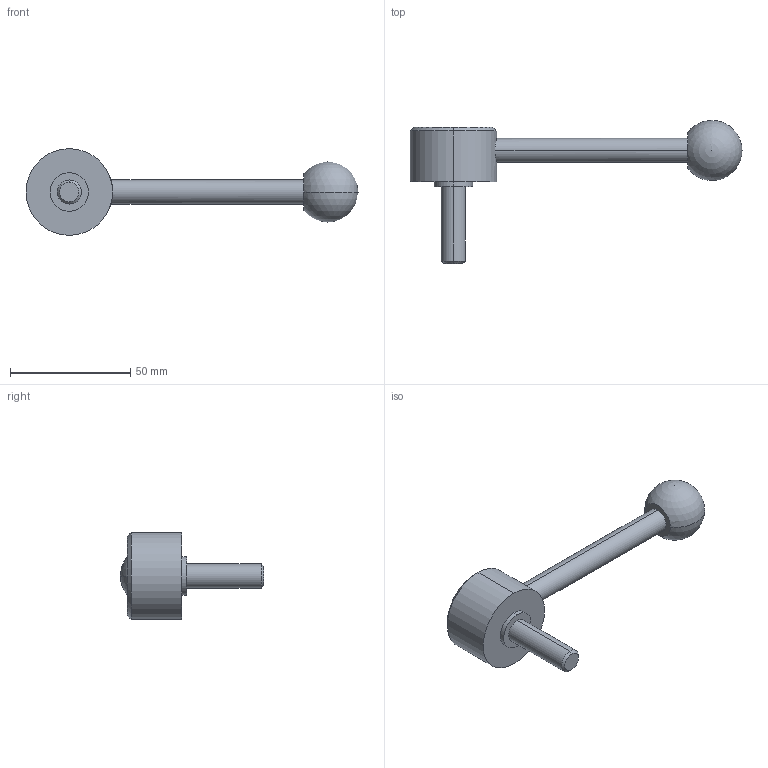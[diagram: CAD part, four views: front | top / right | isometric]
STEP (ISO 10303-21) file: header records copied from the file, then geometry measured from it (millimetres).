
FILE_DESCRIPTION (( 'STEP AP214' ), '1' );
FILE_NAME ('125.5-36-M10-32-D.step', '2020-02-18T11:29:57', ( '' ), ( '' ), 'SwSTEP 2.0', 'SolidWorks 2019', '' );
FILE_SCHEMA (( 'AUTOMOTIVE_DESIGN' ));
Length unit declared in the file: millimetre
Products named in the file (1): 125.5-36-M10-32-D
Bounding box: 138 x 59.5 x 36 mm (x, y, z)
Volume: 39985.4 mm3; surface area: 9871 mm2
Topology: 1 solids, 1 shells, 22 faces, 47 edges, 30 vertices
Faces by surface type: cylinder 10, plane 6, cone 4, sphere 2
Entity records: 738 total; most frequent: CARTESIAN_POINT 166, DIRECTION 112, ORIENTED_EDGE 84, AXIS2_PLACEMENT_3D 49, EDGE_CURVE 42, EDGE_LOOP 27, VERTEX_POINT 27, CIRCLE 26
